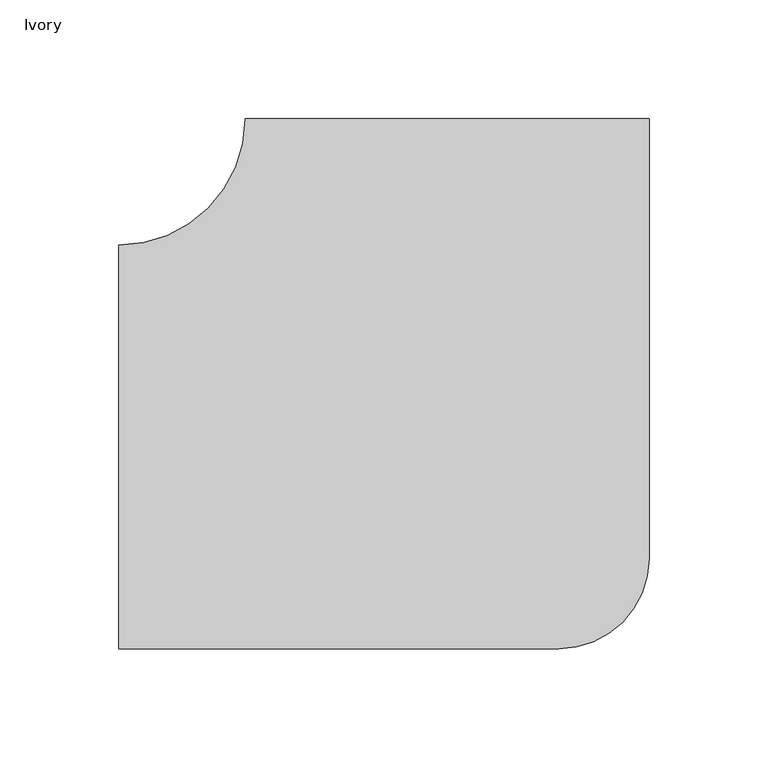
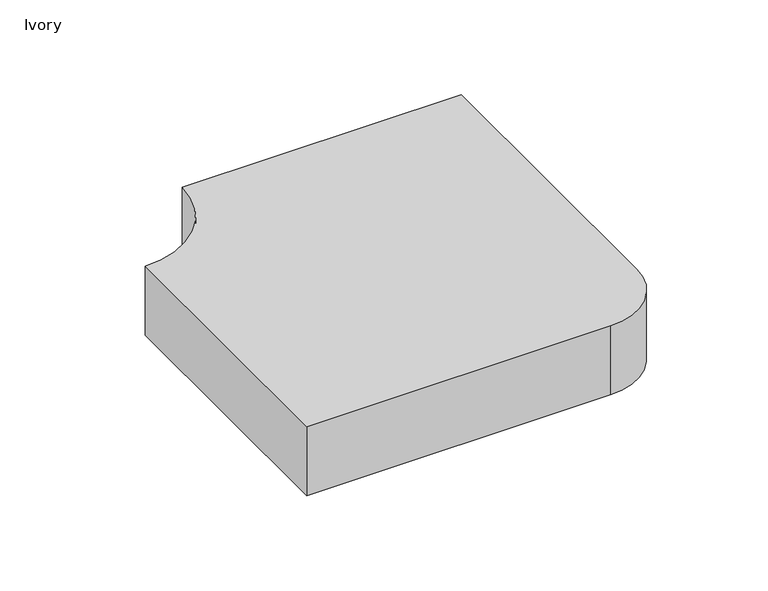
"""IFC4 building model written with IfcOpenShell, lengths in millimetres: proxy geometry, Elbow-5500_Series-Wiremold-Flat : Ivory."""

from ifc_helpers import new_model, si_unit, point, frame_2d, origin, origin_with_axes, place, context, project, spatial, polyline, circle_curve, trimmed, segment, composite_curve, outline, extrude, source, transform, mapped, element, save


def ivory_691682e6(model_context):
    return source(origin(), model_context, "Body", "SweptSolid", [
        extrude(outline(composite_curve([segment(polyline([(84.9376, 138.0744), (84.9376, -46.8376)]), True, "CONTINUOUS"), segment(trimmed(circle_curve(frame_2d((46.8376, -46.8376)), 38.1), [point((84.9376, -46.8376))], [point((46.8376, -84.9376))], False, "CARTESIAN"), True, "CONTINUOUS"), segment(polyline([(46.8376, -84.9376), (-138.0744, -84.9376), (-138.0744, 84.9376)]), True, "CONTINUOUS"), segment(trimmed(circle_curve(frame_2d((-138.0744, 138.0744)), 53.1368), [point((-138.0744, 84.9376))], [point((-84.9376, 138.0744))], True, "CARTESIAN"), True, "CONTINUOUS"), segment(polyline([(-84.9376, 138.0744), (84.9376, 138.0744)]), True, "CONTINUOUS")], self_intersect=False)), origin_with_axes(), (0.0, 0.0, 1.0), 44.45),
    ])


if __name__ == "__main__":
    model = new_model("IFC4")
    model_context = context("Model", 3, world=origin())
    ifc_project = project(units=[si_unit("LENGTHUNIT", "METRE", prefix="MILLI")], contexts=[model_context])
    site = spatial("IfcSite", under=ifc_project)
    building = spatial("IfcBuilding", under=site)
    placement = place(None, origin())
    ivory_shape = ivory_691682e6(model_context)
    element("IfcBuildingElementProxy", 1, Name="Elbow-5500_Series-Wiremold-Flat : Ivory", ObjectType="Elbow-5500_Series-Wiremold-Flat : Ivory", at=placement, inside=building, context=model_context, shape_type="MappedRepresentation", body=[
        mapped(ivory_shape, transform((0.0, 0.0, 0.0), x_axis=(1.0, 0.0, 0.0), y_axis=(0.0, 1.0, 0.0), z_axis=(0.0, 0.0, 1.0))),
    ])
    save(model, "model.ifc")
